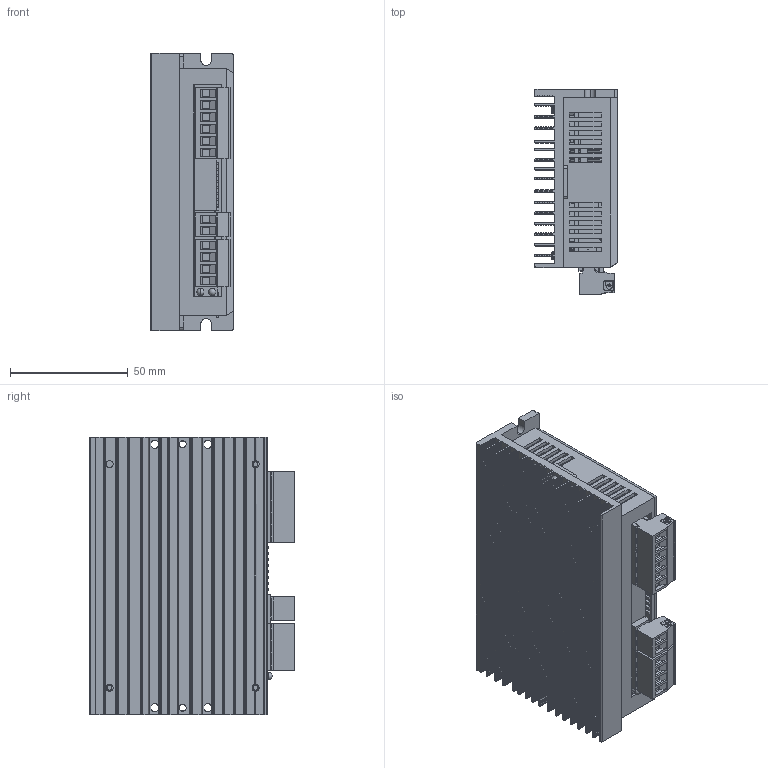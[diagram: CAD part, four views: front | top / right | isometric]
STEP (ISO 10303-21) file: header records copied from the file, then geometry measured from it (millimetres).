
FILE_DESCRIPTION (( 'STEP AP214' ), '1' );
FILE_NAME ('2DM542.STEP', '2016-04-16T07:43:44', ( 'User' ), ( 'china' ), 'SwSTEP 2.0', 'SolidWorks 2010', '' );
FILE_SCHEMA (( 'AUTOMOTIVE_DESIGN' ));
Length unit declared in the file: millimetre
Products named in the file (15): 2DM542; 2DM542散热器; two led; User Library-MSTB 2,5-6-G-5,08 1759059_mstb_2.5-6-g-5.08; 6位拨码开关_Défaut; User Library-MSTB 2,5-4-G-5,08 1759033_mstb_2.5-4-g-5.08; 8位拨码开关_Défaut; 5.08-2p 公头_Défaut; RJ21; 2DM542奻裔; 57PCB; 5.08 -4p 母头_Défaut; 5.08 -6p 母头_Défaut; M3; 5.08-2p 母头_Défaut
Assembly tree (16 placements, depth 2):
  2DM542
    5.08-2p 公头_Défaut
    M3  x3
    5.08-2p 母头_Défaut
    User Library-MSTB 2,5-6-G-5,08 1759059_mstb_2.5-6-g-5.08
    2DM542散热器
    User Library-MSTB 2,5-4-G-5,08 1759033_mstb_2.5-4-g-5.08
    8位拨码开关_Défaut
    RJ21
    2DM542奻裔
    two led
    5.08 -4p 母头_Défaut
    57PCB
    6位拨码开关_Défaut
    5.08 -6p 母头_Défaut
Bounding box: 35 x 87 x 118 mm (x, y, z)
Volume: 107418.2 mm3; surface area: 117129.4 mm2
Topology: 16 solids, 16 shells, 3281 faces, 8663 edges, 5607 vertices
Faces by surface type: plane 1852, cylinder 1232, bspline 165, cone 25, sphere 7
Entity records: 145721 total; most frequent: CARTESIAN_POINT 32264, ORIENTED_EDGE 16530, DIRECTION 16044, EDGE_CURVE 8265, LINE 5448, VECTOR 5448, VERTEX_POINT 5371, AXIS2_PLACEMENT_3D 5298
